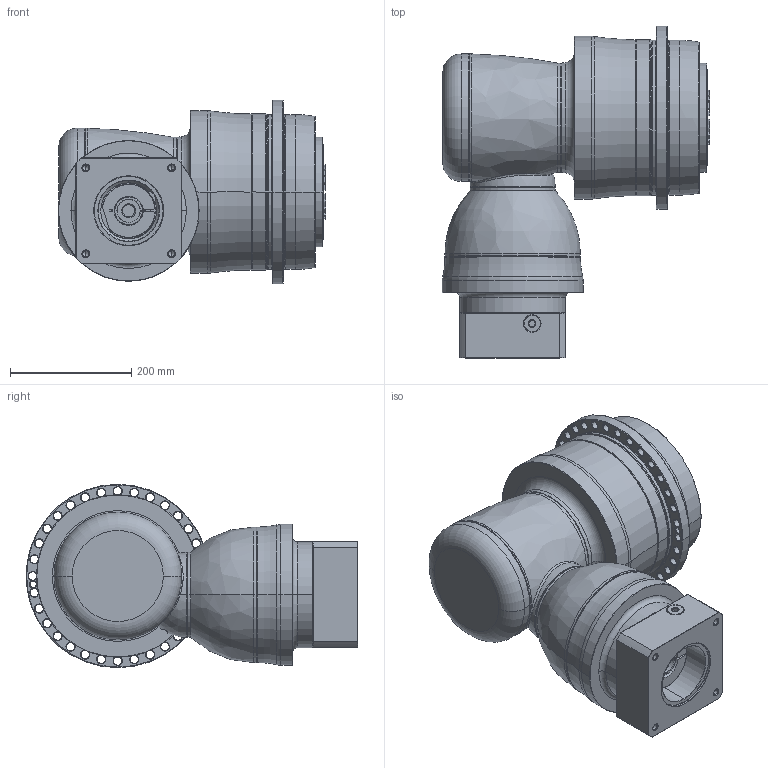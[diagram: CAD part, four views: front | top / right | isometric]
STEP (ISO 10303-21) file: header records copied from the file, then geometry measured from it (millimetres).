
FILE_DESCRIPTION((''),'2;1');
FILE_NAME('APCK255_4ST_38-P0409910201_ASM','2018-05-17T',('d01226'),(''),'PRO/ENGINEER BY PARAMETRIC TECHNOLOGY CORPORATION, 2008410','PRO/ENGINEER BY PARAMETRIC TECHNOLOGY CORPORATION, 2008410','');
FILE_SCHEMA(('CONFIG_CONTROL_DESIGN'));
Length unit declared in the file: millimetre
Products named in the file (13): P1008600002; P1832700001; P0278701003; P0359770103; P1211700001; P1315600001; P1007601001; P1317610401; P0409910201; P0503900012; P0912554001; 21711422019; APCK255_4ST_38-P0409910201_ASM
Assembly tree (12 placements, depth 2):
  APCK255_4ST_38-P0409910201_ASM
    P1008600002
    P1832700001
    P0278701003
    P0359770103
    P1211700001
    P1315600001
    P1007601001
    P1317610401
    P0409910201
    P0503900012
    P0912554001
    21711422019
Bounding box: 440.6 x 546.5 x 302 mm (x, y, z)
Volume: 25674923.6 mm3; surface area: 1502021.5 mm2
Topology: 13 solids, 25 shells, 809 faces, 1942 edges, 1182 vertices
Faces by surface type: cone 270, cylinder 241, plane 138, torus 125, bspline 33, sphere 2
Entity records: 30829 total; most frequent: CARTESIAN_POINT 11457, DIRECTION 4341, ORIENTED_EDGE 3806, EDGE_CURVE 1928, AXIS2_PLACEMENT_3D 1902, VERTEX_POINT 1182, CIRCLE 1089, EDGE_LOOP 930
